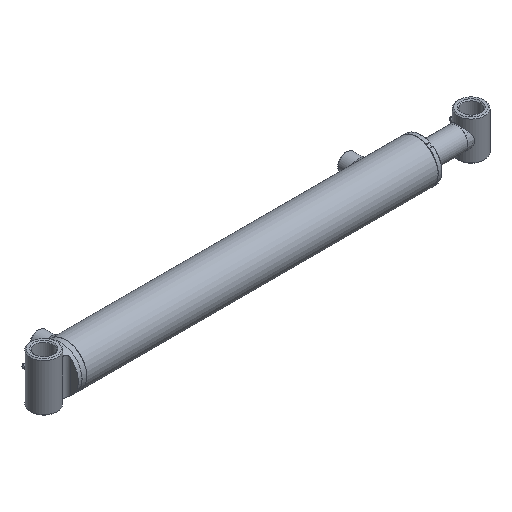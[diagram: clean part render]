
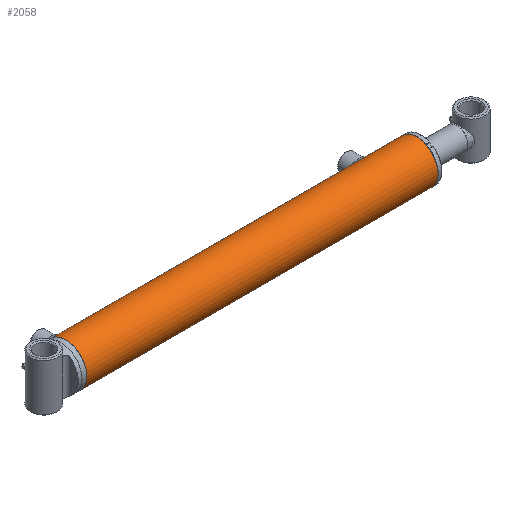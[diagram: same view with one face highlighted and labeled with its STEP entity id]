
A CAD part, isometric view. The second image highlights one B-rep face of the part: STEP entity #2058.
In plain terms, the highlighted cylindrical face has radius 30.163 mm (diameter 60.325 mm), a full revolution.
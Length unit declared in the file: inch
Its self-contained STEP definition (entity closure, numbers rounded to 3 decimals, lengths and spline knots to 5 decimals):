
#377=FACE_BOUND('',#700,.T.);
#378=FACE_BOUND('',#701,.T.);
#379=FACE_BOUND('',#702,.T.);
#500=FACE_OUTER_BOUND('',#699,.T.);
#699=EDGE_LOOP('',(#1636));
#700=EDGE_LOOP('',(#1637));
#701=EDGE_LOOP('',(#1638));
#702=EDGE_LOOP('',(#1639));
#908=CIRCLE('',#2250,1.1875);
#912=CIRCLE('',#2258,1.1875);
#1027=B_SPLINE_CURVE_WITH_KNOTS('',3,(#4747,#4748,#4749,#4750,#4751,#4752,
#4753,#4754,#4755,#4756,#4757,#4758,#4759,#4760,#4761,#4762,#4763,#4764,
#4765,#4766,#4767,#4768,#4769,#4770,#4771,#4772,#4773,#4774,#4775,#4776,
#4777,#4778,#4779,#4780),.UNSPECIFIED.,.T.,.F.,(4,2,2,2,2,2,2,2,2,2,2,2,
2,2,2,2,4),(0.,0.18872,0.37744,0.56616,0.75487,
0.94359,1.1323,1.32102,1.50975,1.69847,
1.88719,2.0759,2.26462,2.45333,2.64205,
2.83077,3.01949),.UNSPECIFIED.);
#1029=B_SPLINE_CURVE_WITH_KNOTS('',3,(#4970,#4971,#4972,#4973,#4974,#4975,
#4976,#4977,#4978,#4979,#4980,#4981,#4982,#4983,#4984,#4985,#4986,#4987,
#4988,#4989,#4990,#4991,#4992,#4993,#4994,#4995,#4996,#4997,#4998,#4999,
#5000,#5001,#5002,#5003),.UNSPECIFIED.,.T.,.F.,(4,2,2,2,2,2,2,2,2,2,2,2,
2,2,2,2,4),(0.,0.18872,0.37744,0.56616,0.75487,
0.94359,1.1323,1.32102,1.50975,1.69847,
1.88719,2.0759,2.26462,2.45333,2.64205,
2.83077,3.01949),.UNSPECIFIED.);
#1098=VERTEX_POINT('',#4746);
#1100=VERTEX_POINT('',#4969);
#1104=VERTEX_POINT('',#5013);
#1108=VERTEX_POINT('',#5025);
#1303=EDGE_CURVE('',#1098,#1098,#1027,.T.);
#1306=EDGE_CURVE('',#1100,#1100,#1029,.T.);
#1310=EDGE_CURVE('',#1104,#1104,#908,.T.);
#1314=EDGE_CURVE('',#1108,#1108,#912,.T.);
#1636=ORIENTED_EDGE('',*,*,#1314,.T.);
#1637=ORIENTED_EDGE('',*,*,#1303,.T.);
#1638=ORIENTED_EDGE('',*,*,#1306,.T.);
#1639=ORIENTED_EDGE('',*,*,#1310,.F.);
#1980=CYLINDRICAL_SURFACE('',#2260,1.1875);
#2058=ADVANCED_FACE('',(#500,#377,#378,#379),#1980,.T.);
#2250=AXIS2_PLACEMENT_3D('',#5014,#2627,#2628);
#2258=AXIS2_PLACEMENT_3D('',#5026,#2643,#2644);
#2260=AXIS2_PLACEMENT_3D('',#5028,#2647,#2648);
#2627=DIRECTION('center_axis',(1.,0.,0.));
#2628=DIRECTION('ref_axis',(0.,-1.,0.));
#2643=DIRECTION('center_axis',(1.,0.,0.));
#2644=DIRECTION('ref_axis',(0.,-1.,0.));
#2647=DIRECTION('center_axis',(1.,0.,0.));
#2648=DIRECTION('ref_axis',(0.,-1.,0.));
#4746=CARTESIAN_POINT('',(7.94094,1.17107,-0.19685));
#4747=CARTESIAN_POINT('Ctrl Pts',(7.94094,1.17107,-0.19685));
#4748=CARTESIAN_POINT('Ctrl Pts',(7.96571,1.17107,-0.19685));
#4749=CARTESIAN_POINT('Ctrl Pts',(7.9921,1.17194,-0.19189));
#4750=CARTESIAN_POINT('Ctrl Pts',(8.04058,1.17505,-0.17179));
#4751=CARTESIAN_POINT('Ctrl Pts',(8.06269,1.17725,-0.15665));
#4752=CARTESIAN_POINT('Ctrl Pts',(8.09759,1.18137,-0.12174));
#4753=CARTESIAN_POINT('Ctrl Pts',(8.11273,1.18356,-0.09964));
#4754=CARTESIAN_POINT('Ctrl Pts',(8.13284,1.18665,-0.05115));
#4755=CARTESIAN_POINT('Ctrl Pts',(8.1378,1.1875,-0.02477));
#4756=CARTESIAN_POINT('Ctrl Pts',(8.1378,1.1875,0.02477));
#4757=CARTESIAN_POINT('Ctrl Pts',(8.13284,1.18665,0.05115));
#4758=CARTESIAN_POINT('Ctrl Pts',(8.11273,1.18356,0.09964));
#4759=CARTESIAN_POINT('Ctrl Pts',(8.09759,1.18137,0.12174));
#4760=CARTESIAN_POINT('Ctrl Pts',(8.06269,1.17725,0.15665));
#4761=CARTESIAN_POINT('Ctrl Pts',(8.04058,1.17505,0.17179));
#4762=CARTESIAN_POINT('Ctrl Pts',(7.9921,1.17194,0.19189));
#4763=CARTESIAN_POINT('Ctrl Pts',(7.96571,1.17107,0.19685));
#4764=CARTESIAN_POINT('Ctrl Pts',(7.91618,1.17107,0.19685));
#4765=CARTESIAN_POINT('Ctrl Pts',(7.88979,1.17194,0.19189));
#4766=CARTESIAN_POINT('Ctrl Pts',(7.84131,1.17505,0.17179));
#4767=CARTESIAN_POINT('Ctrl Pts',(7.8192,1.17725,0.15665));
#4768=CARTESIAN_POINT('Ctrl Pts',(7.7843,1.18137,0.12174));
#4769=CARTESIAN_POINT('Ctrl Pts',(7.76916,1.18356,0.09964));
#4770=CARTESIAN_POINT('Ctrl Pts',(7.74905,1.18665,0.05115));
#4771=CARTESIAN_POINT('Ctrl Pts',(7.74409,1.1875,0.02477));
#4772=CARTESIAN_POINT('Ctrl Pts',(7.74409,1.1875,-0.02477));
#4773=CARTESIAN_POINT('Ctrl Pts',(7.74905,1.18665,-0.05115));
#4774=CARTESIAN_POINT('Ctrl Pts',(7.76916,1.18356,-0.09964));
#4775=CARTESIAN_POINT('Ctrl Pts',(7.7843,1.18137,-0.12174));
#4776=CARTESIAN_POINT('Ctrl Pts',(7.8192,1.17725,-0.15665));
#4777=CARTESIAN_POINT('Ctrl Pts',(7.84131,1.17505,-0.17179));
#4778=CARTESIAN_POINT('Ctrl Pts',(7.88979,1.17194,-0.19189));
#4779=CARTESIAN_POINT('Ctrl Pts',(7.91618,1.17107,-0.19685));
#4780=CARTESIAN_POINT('Ctrl Pts',(7.94094,1.17107,-0.19685));
#4969=CARTESIAN_POINT('',(-9.35827,1.17107,-0.19685));
#4970=CARTESIAN_POINT('Ctrl Pts',(-9.35827,1.17107,-0.19685));
#4971=CARTESIAN_POINT('Ctrl Pts',(-9.3335,1.17107,-0.19685));
#4972=CARTESIAN_POINT('Ctrl Pts',(-9.30712,1.17194,-0.19189));
#4973=CARTESIAN_POINT('Ctrl Pts',(-9.25863,1.17505,-0.17179));
#4974=CARTESIAN_POINT('Ctrl Pts',(-9.23653,1.17725,-0.15665));
#4975=CARTESIAN_POINT('Ctrl Pts',(-9.20162,1.18137,-0.12174));
#4976=CARTESIAN_POINT('Ctrl Pts',(-9.18648,1.18356,-0.09964));
#4977=CARTESIAN_POINT('Ctrl Pts',(-9.16638,1.18665,-0.05115));
#4978=CARTESIAN_POINT('Ctrl Pts',(-9.16142,1.1875,-0.02477));
#4979=CARTESIAN_POINT('Ctrl Pts',(-9.16142,1.1875,0.02477));
#4980=CARTESIAN_POINT('Ctrl Pts',(-9.16638,1.18665,0.05115));
#4981=CARTESIAN_POINT('Ctrl Pts',(-9.18648,1.18356,0.09964));
#4982=CARTESIAN_POINT('Ctrl Pts',(-9.20162,1.18137,0.12174));
#4983=CARTESIAN_POINT('Ctrl Pts',(-9.23653,1.17725,0.15665));
#4984=CARTESIAN_POINT('Ctrl Pts',(-9.25863,1.17505,0.17179));
#4985=CARTESIAN_POINT('Ctrl Pts',(-9.30712,1.17194,0.19189));
#4986=CARTESIAN_POINT('Ctrl Pts',(-9.3335,1.17107,0.19685));
#4987=CARTESIAN_POINT('Ctrl Pts',(-9.38303,1.17107,0.19685));
#4988=CARTESIAN_POINT('Ctrl Pts',(-9.40942,1.17194,0.19189));
#4989=CARTESIAN_POINT('Ctrl Pts',(-9.45791,1.17505,0.17179));
#4990=CARTESIAN_POINT('Ctrl Pts',(-9.48001,1.17725,0.15665));
#4991=CARTESIAN_POINT('Ctrl Pts',(-9.51491,1.18137,0.12174));
#4992=CARTESIAN_POINT('Ctrl Pts',(-9.53006,1.18356,0.09964));
#4993=CARTESIAN_POINT('Ctrl Pts',(-9.55016,1.18665,0.05115));
#4994=CARTESIAN_POINT('Ctrl Pts',(-9.55512,1.1875,0.02477));
#4995=CARTESIAN_POINT('Ctrl Pts',(-9.55512,1.1875,-0.02477));
#4996=CARTESIAN_POINT('Ctrl Pts',(-9.55016,1.18665,-0.05115));
#4997=CARTESIAN_POINT('Ctrl Pts',(-9.53006,1.18356,-0.09964));
#4998=CARTESIAN_POINT('Ctrl Pts',(-9.51491,1.18137,-0.12174));
#4999=CARTESIAN_POINT('Ctrl Pts',(-9.48001,1.17725,-0.15665));
#5000=CARTESIAN_POINT('Ctrl Pts',(-9.45791,1.17505,-0.17179));
#5001=CARTESIAN_POINT('Ctrl Pts',(-9.40942,1.17194,-0.19189));
#5002=CARTESIAN_POINT('Ctrl Pts',(-9.38303,1.17107,-0.19685));
#5003=CARTESIAN_POINT('Ctrl Pts',(-9.35827,1.17107,-0.19685));
#5013=CARTESIAN_POINT('',(9.94882,1.1875,0.));
#5014=CARTESIAN_POINT('Origin',(9.94882,0.,0.));
#5025=CARTESIAN_POINT('',(-9.78494,1.1875,0.));
#5026=CARTESIAN_POINT('Origin',(-9.78494,0.,0.));
#5028=CARTESIAN_POINT('Origin',(0.,0.,0.));
